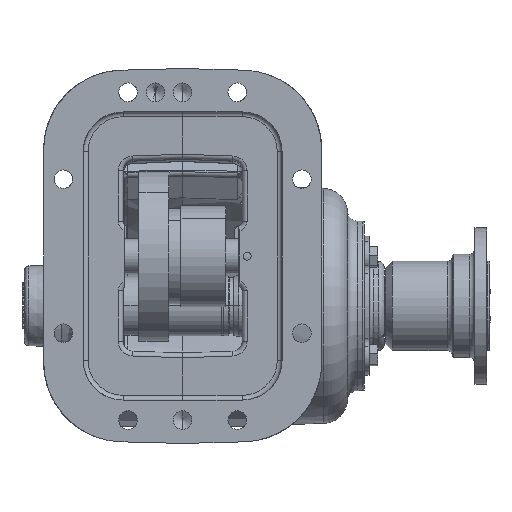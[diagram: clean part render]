
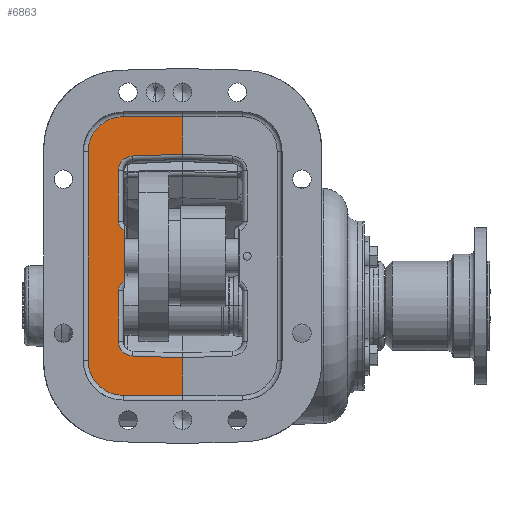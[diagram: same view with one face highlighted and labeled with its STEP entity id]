
A CAD part, front view. The second image highlights one B-rep face of the part: STEP entity #6863.
In plain terms, the highlighted planar face has unit normal (0, -1, 0).
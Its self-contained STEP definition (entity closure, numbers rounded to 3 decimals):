
#2739 = CARTESIAN_POINT ( 'NONE',  ( -99.29, -133.047, -95.578 ) ) ;
#2747 = PLANE ( 'NONE',  #9333 ) ;
#2751 = DIRECTION ( 'NONE',  ( 0., 1., 0. ) ) ;
#2753 = DIRECTION ( 'NONE',  ( 0., 0., -1. ) ) ;
#6863 = ADVANCED_FACE ( 'NONE', ( #13027 ), #2747, .F. ) ;
#9333 = AXIS2_PLACEMENT_3D ( 'NONE', #2739, #2751, #2753 ) ;
#12740 = VERTEX_POINT ( 'NONE', #83669 ) ;
#13027 = FACE_OUTER_BOUND ( 'NONE', #20590, .T. ) ;
#13160 = VERTEX_POINT ( 'NONE', #83773 ) ;
#19269 = ORIENTED_EDGE ( 'NONE', *, *, #104892, .F. ) ;
#19270 = ORIENTED_EDGE ( 'NONE', *, *, #104827, .F. ) ;
#19271 = ORIENTED_EDGE ( 'NONE', *, *, #54819, .F. ) ;
#19272 = ORIENTED_EDGE ( 'NONE', *, *, #54813, .F. ) ;
#19273 = ORIENTED_EDGE ( 'NONE', *, *, #54807, .F. ) ;
#19274 = ORIENTED_EDGE ( 'NONE', *, *, #104894, .T. ) ;
#19275 = ORIENTED_EDGE ( 'NONE', *, *, #54903, .F. ) ;
#19276 = ORIENTED_EDGE ( 'NONE', *, *, #54898, .F. ) ;
#19277 = ORIENTED_EDGE ( 'NONE', *, *, #54905, .F. ) ;
#19278 = ORIENTED_EDGE ( 'NONE', *, *, #54911, .F. ) ;
#19279 = ORIENTED_EDGE ( 'NONE', *, *, #54917, .F. ) ;
#19280 = ORIENTED_EDGE ( 'NONE', *, *, #104897, .T. ) ;
#19281 = ORIENTED_EDGE ( 'NONE', *, *, #54837, .F. ) ;
#19282 = ORIENTED_EDGE ( 'NONE', *, *, #54833, .F. ) ;
#19283 = ORIENTED_EDGE ( 'NONE', *, *, #54827, .F. ) ;
#19284 = ORIENTED_EDGE ( 'NONE', *, *, #104859, .F. ) ;
#20590 = EDGE_LOOP ( 'NONE', ( #19269, #19270, #19271, #19272, #19273, #19274, #19275, #19276, #19277, #19278, #19279, #19280, #19281, #19282, #19283, #19284 ) ) ;
#27419 = LINE ( 'NONE', #28352, #27422 ) ;
#27422 = VECTOR ( 'NONE', #28353, 1000. ) ;
#27427 = CIRCLE ( 'NONE', #95601, 9.398 ) ;
#27435 = LINE ( 'NONE', #28385, #27438 ) ;
#27438 = VECTOR ( 'NONE', #28386, 1000. ) ;
#27448 = LINE ( 'NONE', #28402, #27450 ) ;
#27450 = VECTOR ( 'NONE', #28397, 1000. ) ;
#27455 = CIRCLE ( 'NONE', #95643, 9.398 ) ;
#27459 = LINE ( 'NONE', #28434, #27462 ) ;
#27462 = VECTOR ( 'NONE', #28435, 1000. ) ;
#27496 = CIRCLE ( 'NONE', #95750, 22.352 ) ;
#27506 = LINE ( 'NONE', #29516, #27513 ) ;
#27507 = LINE ( 'NONE', #29501, #27510 ) ;
#27510 = VECTOR ( 'NONE', #29506, 1000. ) ;
#27513 = VECTOR ( 'NONE', #29457, 1000. ) ;
#27516 = CIRCLE ( 'NONE', #95772, 22.352 ) ;
#27524 = LINE ( 'NONE', #29652, #27529 ) ;
#27529 = VECTOR ( 'NONE', #29636, 1000. ) ;
#28352 = CARTESIAN_POINT ( 'NONE',  ( -42.468, -133.047, 85.803 ) ) ;
#28353 = DIRECTION ( 'NONE',  ( -0.999, 0., -0.035 ) ) ;
#28371 = CARTESIAN_POINT ( 'NONE',  ( -42.14, -133.047, 76.41 ) ) ;
#28372 = DIRECTION ( 'NONE',  ( 0., -1., 0. ) ) ;
#28373 = DIRECTION ( 'NONE',  ( 0., 0., -1. ) ) ;
#28385 = CARTESIAN_POINT ( 'NONE',  ( -51.538, -133.047, 44.059 ) ) ;
#28386 = DIRECTION ( 'NONE',  ( 0., 0., -1. ) ) ;
#28397 = DIRECTION ( 'NONE',  ( 0., 0., -1. ) ) ;
#28402 = CARTESIAN_POINT ( 'NONE',  ( -51.538, -133.047, -32.617 ) ) ;
#28424 = CARTESIAN_POINT ( 'NONE',  ( -42.14, -133.047, -32.617 ) ) ;
#28425 = DIRECTION ( 'NONE',  ( 0., -1., 0. ) ) ;
#28426 = DIRECTION ( 'NONE',  ( 0., 0., -1. ) ) ;
#28434 = CARTESIAN_POINT ( 'NONE',  ( -10.497, -133.047, -43.125 ) ) ;
#28435 = DIRECTION ( 'NONE',  ( 0.999, 0., -0.035 ) ) ;
#29448 = CARTESIAN_POINT ( 'NONE',  ( -48.49, -133.047, 88.572 ) ) ;
#29451 = DIRECTION ( 'NONE',  ( 0., 1., 0. ) ) ;
#29454 = DIRECTION ( 'NONE',  ( 0., 0., -1. ) ) ;
#29457 = DIRECTION ( 'NONE',  ( 0., 0., 1. ) ) ;
#29501 = CARTESIAN_POINT ( 'NONE',  ( -10.39, -133.047, 110.924 ) ) ;
#29506 = DIRECTION ( 'NONE',  ( 1., 0., 0. ) ) ;
#29516 = CARTESIAN_POINT ( 'NONE',  ( -70.842, -133.047, 88.572 ) ) ;
#29587 = CARTESIAN_POINT ( 'NONE',  ( -48.49, -133.047, -44.778 ) ) ;
#29590 = DIRECTION ( 'NONE',  ( 0., 1., 0. ) ) ;
#29593 = DIRECTION ( 'NONE',  ( 0., 0., -1. ) ) ;
#29636 = DIRECTION ( 'NONE',  ( -1., 0., 0. ) ) ;
#29652 = CARTESIAN_POINT ( 'NONE',  ( -48.49, -133.047, -67.13 ) ) ;
#45774 = AXIS2_PLACEMENT_3D ( 'NONE', #80738, #80739, #80740 ) ;
#45797 = AXIS2_PLACEMENT_3D ( 'NONE', #80818, #80819, #80820 ) ;
#48450 = VERTEX_POINT ( 'NONE', #87136 ) ;
#48451 = VERTEX_POINT ( 'NONE', #87137 ) ;
#48452 = VERTEX_POINT ( 'NONE', #87138 ) ;
#48453 = VERTEX_POINT ( 'NONE', #87139 ) ;
#48457 = VERTEX_POINT ( 'NONE', #87143 ) ;
#48463 = VERTEX_POINT ( 'NONE', #87149 ) ;
#48469 = VERTEX_POINT ( 'NONE', #87155 ) ;
#48474 = VERTEX_POINT ( 'NONE', #87160 ) ;
#48489 = VERTEX_POINT ( 'NONE', #87175 ) ;
#48508 = VERTEX_POINT ( 'NONE', #87194 ) ;
#48509 = VERTEX_POINT ( 'NONE', #87195 ) ;
#48512 = VERTEX_POINT ( 'NONE', #87198 ) ;
#48516 = VERTEX_POINT ( 'NONE', #87202 ) ;
#48520 = VERTEX_POINT ( 'NONE', #87206 ) ;
#54807 = EDGE_CURVE ( 'NONE', #48450, #48451, #27419, .T. ) ;
#54813 = EDGE_CURVE ( 'NONE', #48451, #48452, #27427, .T. ) ;
#54819 = EDGE_CURVE ( 'NONE', #48452, #48453, #27435, .T. ) ;
#54827 = EDGE_CURVE ( 'NONE', #48469, #48463, #27448, .T. ) ;
#54833 = EDGE_CURVE ( 'NONE', #48463, #48457, #27455, .T. ) ;
#54837 = EDGE_CURVE ( 'NONE', #48457, #48474, #27459, .T. ) ;
#54898 = EDGE_CURVE ( 'NONE', #48489, #48508, #27496, .T. ) ;
#54903 = EDGE_CURVE ( 'NONE', #48508, #48509, #27507, .T. ) ;
#54905 = EDGE_CURVE ( 'NONE', #48512, #48489, #27506, .T. ) ;
#54911 = EDGE_CURVE ( 'NONE', #48516, #48512, #27516, .T. ) ;
#54917 = EDGE_CURVE ( 'NONE', #48520, #48516, #27524, .T. ) ;
#69375 = CIRCLE ( 'NONE', #45774, 6.096 ) ;
#69386 = LINE ( 'NONE', #80888, #69407 ) ;
#69390 = CIRCLE ( 'NONE', #45797, 6.096 ) ;
#69400 = LINE ( 'NONE', #80892, #69403 ) ;
#69402 = LINE ( 'NONE', #80894, #69405 ) ;
#69403 = VECTOR ( 'NONE', #80893, 1000. ) ;
#69405 = VECTOR ( 'NONE', #80896, 1000. ) ;
#69407 = VECTOR ( 'NONE', #80897, 1000. ) ;
#80738 = CARTESIAN_POINT ( 'NONE',  ( -45.442, -133.047, 44.059 ) ) ;
#80739 = DIRECTION ( 'NONE',  ( 0., -1., 0. ) ) ;
#80740 = DIRECTION ( 'NONE',  ( 0., 0., -1. ) ) ;
#80818 = CARTESIAN_POINT ( 'NONE',  ( -45.442, -133.047, -0.265 ) ) ;
#80819 = DIRECTION ( 'NONE',  ( 0., -1., 0. ) ) ;
#80820 = DIRECTION ( 'NONE',  ( 0., 0., -1. ) ) ;
#80888 = CARTESIAN_POINT ( 'NONE',  ( -10.39, -133.047, -95.578 ) ) ;
#80892 = CARTESIAN_POINT ( 'NONE',  ( -47.728, -133.047, -95.578 ) ) ;
#80893 = DIRECTION ( 'NONE',  ( 0., 0., -1. ) ) ;
#80894 = CARTESIAN_POINT ( 'NONE',  ( -10.39, -133.047, -95.578 ) ) ;
#80896 = DIRECTION ( 'NONE',  ( 0., 0., 1. ) ) ;
#80897 = DIRECTION ( 'NONE',  ( 0., 0., 1. ) ) ;
#83669 = CARTESIAN_POINT ( 'NONE',  ( -47.728, -133.047, 5.386 ) ) ;
#83773 = CARTESIAN_POINT ( 'NONE',  ( -47.728, -133.047, 38.408 ) ) ;
#87136 = CARTESIAN_POINT ( 'NONE',  ( -10.39, -133.047, 86.923 ) ) ;
#87137 = CARTESIAN_POINT ( 'NONE',  ( -42.468, -133.047, 85.803 ) ) ;
#87138 = CARTESIAN_POINT ( 'NONE',  ( -51.538, -133.047, 76.41 ) ) ;
#87139 = CARTESIAN_POINT ( 'NONE',  ( -51.538, -133.047, 44.059 ) ) ;
#87143 = CARTESIAN_POINT ( 'NONE',  ( -42.468, -133.047, -42.009 ) ) ;
#87149 = CARTESIAN_POINT ( 'NONE',  ( -51.538, -133.047, -32.617 ) ) ;
#87155 = CARTESIAN_POINT ( 'NONE',  ( -51.538, -133.047, -0.265 ) ) ;
#87160 = CARTESIAN_POINT ( 'NONE',  ( -10.39, -133.047, -43.129 ) ) ;
#87175 = CARTESIAN_POINT ( 'NONE',  ( -70.842, -133.047, 88.572 ) ) ;
#87194 = CARTESIAN_POINT ( 'NONE',  ( -48.49, -133.047, 110.924 ) ) ;
#87195 = CARTESIAN_POINT ( 'NONE',  ( -10.39, -133.047, 110.924 ) ) ;
#87198 = CARTESIAN_POINT ( 'NONE',  ( -70.842, -133.047, -44.778 ) ) ;
#87202 = CARTESIAN_POINT ( 'NONE',  ( -48.49, -133.047, -67.13 ) ) ;
#87206 = CARTESIAN_POINT ( 'NONE',  ( -10.39, -133.047, -67.13 ) ) ;
#95601 = AXIS2_PLACEMENT_3D ( 'NONE', #28371, #28372, #28373 ) ;
#95643 = AXIS2_PLACEMENT_3D ( 'NONE', #28424, #28425, #28426 ) ;
#95750 = AXIS2_PLACEMENT_3D ( 'NONE', #29448, #29451, #29454 ) ;
#95772 = AXIS2_PLACEMENT_3D ( 'NONE', #29587, #29590, #29593 ) ;
#104827 = EDGE_CURVE ( 'NONE', #48453, #13160, #69375, .T. ) ;
#104859 = EDGE_CURVE ( 'NONE', #12740, #48469, #69390, .T. ) ;
#104892 = EDGE_CURVE ( 'NONE', #13160, #12740, #69400, .T. ) ;
#104894 = EDGE_CURVE ( 'NONE', #48450, #48509, #69402, .T. ) ;
#104897 = EDGE_CURVE ( 'NONE', #48520, #48474, #69386, .T. ) ;
